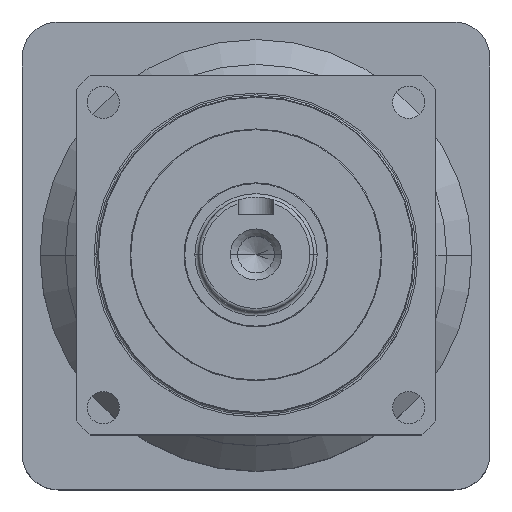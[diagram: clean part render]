
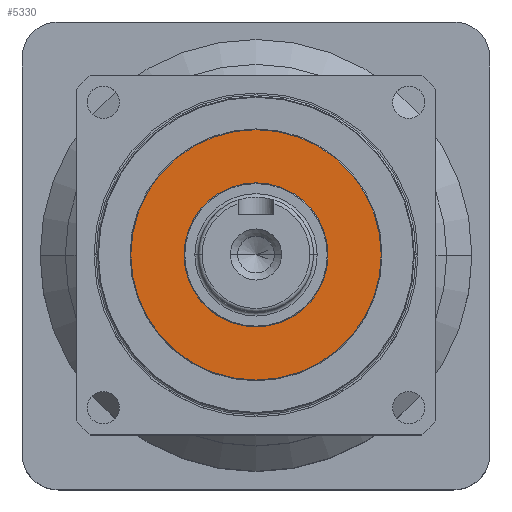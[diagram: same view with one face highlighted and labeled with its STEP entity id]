
A CAD part, top view. The second image highlights one B-rep face of the part: STEP entity #5330.
In plain terms, the highlighted planar face has unit normal (0, 0, 1).
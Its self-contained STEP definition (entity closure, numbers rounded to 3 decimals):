
#25 = PLANE ( 'NONE',  #4921 ) ;
#84 = EDGE_CURVE ( 'NONE', #5668, #311, #4569, .T. ) ;
#153 = CARTESIAN_POINT ( 'NONE',  ( 34.8, 0., 39. ) ) ;
#311 = VERTEX_POINT ( 'NONE', #4847 ) ;
#337 = CARTESIAN_POINT ( 'NONE',  ( 20., 0., 39. ) ) ;
#479 = CARTESIAN_POINT ( 'NONE',  ( 0., 0., 39. ) ) ;
#514 = CARTESIAN_POINT ( 'NONE',  ( 0., 0., 39. ) ) ;
#766 = VERTEX_POINT ( 'NONE', #153 ) ;
#970 = DIRECTION ( 'NONE',  ( 0., 0., 1. ) ) ;
#1341 = DIRECTION ( 'NONE',  ( 1., 0., 0. ) ) ;
#1446 = DIRECTION ( 'NONE',  ( 0., 0., 1. ) ) ;
#1736 = ORIENTED_EDGE ( 'NONE', *, *, #2067, .T. ) ;
#1747 = ORIENTED_EDGE ( 'NONE', *, *, #4411, .F. ) ;
#1794 = VERTEX_POINT ( 'NONE', #4404 ) ;
#2067 = EDGE_CURVE ( 'NONE', #1794, #766, #4296, .T. ) ;
#2746 = AXIS2_PLACEMENT_3D ( 'NONE', #514, #1446, #3822 ) ;
#2769 = DIRECTION ( 'NONE',  ( 0., 0., 1. ) ) ;
#2795 = AXIS2_PLACEMENT_3D ( 'NONE', #6009, #2769, #6038 ) ;
#2865 = DIRECTION ( 'NONE',  ( 1., 0., 0. ) ) ;
#3048 = ORIENTED_EDGE ( 'NONE', *, *, #5225, .T. ) ;
#3137 = DIRECTION ( 'NONE',  ( 0., 0., 1. ) ) ;
#3197 = CARTESIAN_POINT ( 'NONE',  ( 0., 0., 39. ) ) ;
#3508 = EDGE_LOOP ( 'NONE', ( #1747, #3739 ) ) ;
#3596 = CIRCLE ( 'NONE', #2795, 34.8 ) ;
#3666 = DIRECTION ( 'NONE',  ( 1., 0., 0. ) ) ;
#3739 = ORIENTED_EDGE ( 'NONE', *, *, #84, .F. ) ;
#3762 = AXIS2_PLACEMENT_3D ( 'NONE', #479, #4218, #1341 ) ;
#3822 = DIRECTION ( 'NONE',  ( 1., 0., 0. ) ) ;
#3833 = FACE_OUTER_BOUND ( 'NONE', #5768, .T. ) ;
#3839 = CIRCLE ( 'NONE', #2746, 20. ) ;
#3901 = FACE_BOUND ( 'NONE', #3508, .T. ) ;
#4218 = DIRECTION ( 'NONE',  ( 0., 0., 1. ) ) ;
#4222 = CARTESIAN_POINT ( 'NONE',  ( 0., 0., 39. ) ) ;
#4296 = CIRCLE ( 'NONE', #4577, 34.8 ) ;
#4404 = CARTESIAN_POINT ( 'NONE',  ( -34.8, 0., 39. ) ) ;
#4411 = EDGE_CURVE ( 'NONE', #311, #5668, #3839, .T. ) ;
#4569 = CIRCLE ( 'NONE', #3762, 20. ) ;
#4577 = AXIS2_PLACEMENT_3D ( 'NONE', #3197, #3137, #3666 ) ;
#4847 = CARTESIAN_POINT ( 'NONE',  ( -20., 0., 39. ) ) ;
#4921 = AXIS2_PLACEMENT_3D ( 'NONE', #4222, #970, #2865 ) ;
#5225 = EDGE_CURVE ( 'NONE', #766, #1794, #3596, .T. ) ;
#5330 = ADVANCED_FACE ( 'NONE', ( #3901, #3833 ), #25, .T. ) ;
#5668 = VERTEX_POINT ( 'NONE', #337 ) ;
#5768 = EDGE_LOOP ( 'NONE', ( #1736, #3048 ) ) ;
#6009 = CARTESIAN_POINT ( 'NONE',  ( 0., 0., 39. ) ) ;
#6038 = DIRECTION ( 'NONE',  ( 1., 0., 0. ) ) ;
